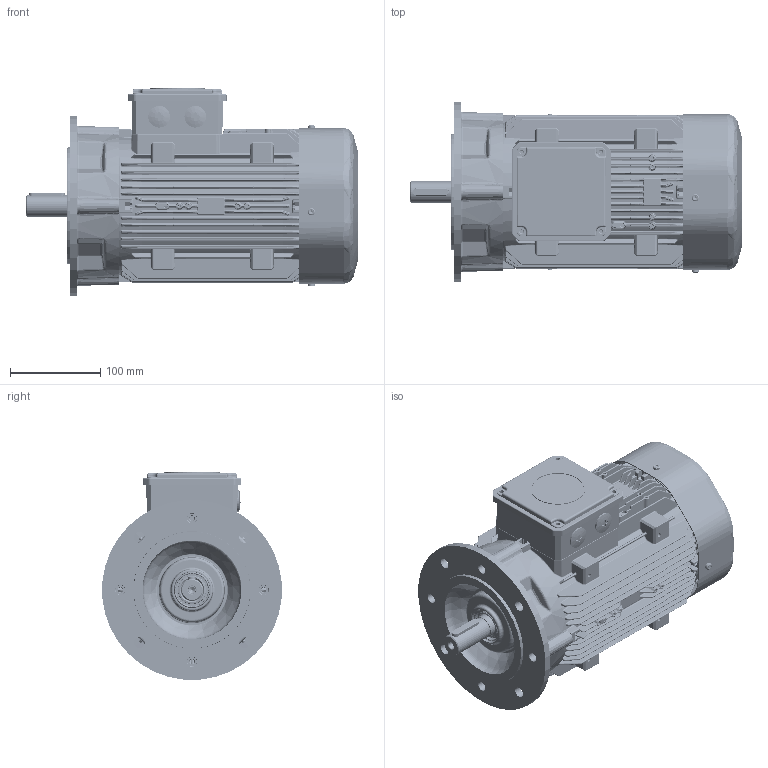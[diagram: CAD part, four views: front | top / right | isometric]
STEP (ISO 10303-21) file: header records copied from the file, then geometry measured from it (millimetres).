
FILE_DESCRIPTION(/* description */ (''),/* implementation_level */ '2;1');
FILE_NAME(/* name */ 'OUTLOOK VIEW QH90 FA B5 FF165 SPL.stp',/* time_stamp */ '2021-09-21T14:33:07+03:00',/* author */ (''),/* organization */ (''),/* preprocessor_version */ 'ST-DEVELOPER v16',/* originating_system */ 'SIEMENS PLM Software NX 11.0',/* authorisation */ '');
FILE_SCHEMA (('AUTOMOTIVE_DESIGN { 1 0 10303 214 3 1 1 1 }'));
Products named in the file (1): 260652D491E0rwts
Bounding box: 367.71 x 198.74 x 229.67 mm (x, y, z)
Volume: 1803561.3 mm3; surface area: 997747.3 mm2
Topology: 40 solids, 49 shells, 9530 faces, 22788 edges, 13085 vertices
Faces by surface type: bspline 3314, cylinder 3109, plane 1955, torus 445, cone 345, sphere 330, extrusion 32
Full cylindrical faces by diameter (mm): 2.5 x2, 3.242 x3, 3.4 x48, 4 x4, 4.2 x1, 4.6 x12, 4.722 x3, 5 x31, 5.5 x4, 6.8 x1, 8 x3, 8.4 x1, 9.874 x1, 10.5 x4, 12 x4, 14 x2, 19.4 x1, 20 x1, 21 x1, 23.38 x2, 23.4 x1, 23.9 x1, 24 x3, 24.4 x2, 25 x5, 25.5 x2, 27.5 x1, 27.94 x1, 29 x2, 30 x1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
Entity records: 347691 total; most frequent: CARTESIAN_POINT 147221, ORIENTED_EDGE 43234, DIRECTION 37657, EDGE_CURVE 21617, AXIS2_PLACEMENT_3D 15245, VERTEX_POINT 12841, EDGE_LOOP 10426, ADVANCED_FACE 9487
